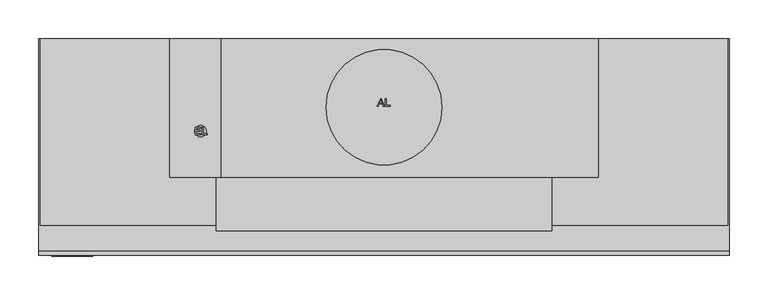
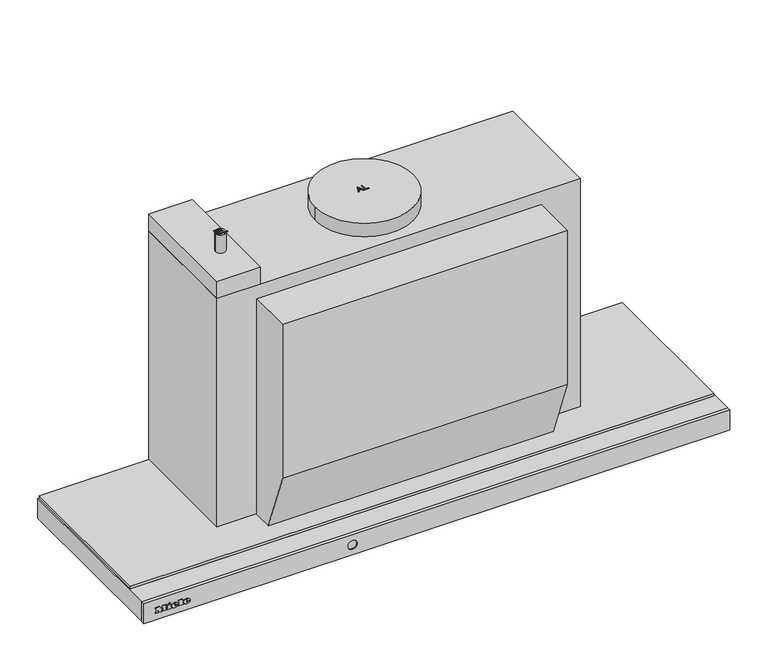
"""IFC4 building model written with IfcOpenShell, lengths in millimetres: proxy geometry, 11878550_USA_DAS4930_OBSW : 28S4930B_USA_11878550_DAS4930_OBSW."""

from ifc_helpers import new_model, si_unit, point, frame, frame_2d, origin, origin_with_axes, place, context, project, spatial, polyline, circle_curve, ellipse_curve, trimmed, segment, composite_curve, outline, extrude, faceted_brep, source, transform, mapped, element, save
from ifc_brep_helpers import plane_surface, cylinder_surface, revolved_surface, extruded_surface, advanced_brep


def specialty_equipment_2b05c946(model_context):
    return source(origin(), model_context, "Body", "SolidModel", [
        advanced_brep(
        [(-383.4590019, -282.1878927, -18.7681017), (-383.4590019, -282.1878927, -17.8894017), (-377.6387019, -282.1878927, -17.8894017), (-387.7655019, -282.1878927, -17.8894017), (-385.3730019, -282.1878927, -20.8300017), (-377.7866019, -282.1878927, -18.7681017), (-380.4140019, -282.1878927, -18.7681017), (-382.4846019, -282.1878927, -19.7425017), (-383.4590019, -282.1878927, -16.7758017), (-383.4590019, -282.1878927, -15.8275017), (-381.9713019, -282.1878927, -15.8275017), (-381.9713019, -282.1878927, -16.7758017), (-383.4590019, -281.1878927, -18.7681017), (-382.4846019, -281.1878927, -19.7425017), (-380.4140019, -281.1878927, -18.7681017), (-377.7866019, -281.1878927, -18.7681017), (-385.3730019, -281.1878927, -20.8300017), (-387.7655019, -281.1878927, -17.8894017), (-377.6387019, -281.1878927, -17.8894017), (-383.4590019, -281.1878927, -17.8894017), (-383.4590019, -281.1878927, -16.7758017), (-381.9713019, -281.1878927, -16.7758017), (-381.9713019, -281.1878927, -15.8275017), (-383.4590019, -281.1878927, -15.8275017)],
        [
            (0, 1),
            (1, 2),
            (2, 3, ellipse_curve(frame((-382.7021019, -282.1878927, -17.8894017), z_axis=(0.0, -1.0, 0.0), x_axis=(-1.0, 0.0, 0.0)), 5.0634, 4.1847)),
            (3, 4, circle_curve(frame((-384.3985544, -282.1878927, -17.5936017), z_axis=(0.0, -1.0, 0.0), x_axis=(0.0, 0.0, -1.0)), 3.3799161)),
            (4, 5, circle_curve(frame((-382.8034638, -282.1878927, -15.2968017), z_axis=(0.0, -1.0, 0.0), x_axis=(0.0, 0.0, -1.0)), 6.1007236)),
            (5, 6),
            (6, 7, circle_curve(frame((-382.0593254, -282.1878927, -17.9590017), z_axis=(0.0, 1.0, 0.0), x_axis=(0.0, 0.0, -1.0)), 1.8335027)),
            (7, 0, circle_curve(frame((-382.4846019, -282.1878927, -18.7681017), z_axis=(0.0, 1.0, 0.0), x_axis=(0.0, 0.0, -1.0)), 0.9744)),
            (8, 9),
            (9, 10, circle_curve(frame((-382.7151519, -282.1878927, -15.8275017), z_axis=(0.0, 1.0, 0.0), x_axis=(0.0, 0.0, -1.0)), 0.74385)),
            (10, 11),
            (11, 8),
            (12, 13, circle_curve(frame((-382.4846019, -281.1878927, -18.7681017), z_axis=(0.0, -1.0, 0.0), x_axis=(0.0, 0.0, -1.0)), 0.9744)),
            (13, 14, circle_curve(frame((-382.0593254, -281.1878927, -17.9590017), z_axis=(0.0, -1.0, 0.0), x_axis=(0.0, 0.0, -1.0)), 1.8335027)),
            (14, 15),
            (15, 16, circle_curve(frame((-382.8034638, -281.1878927, -15.2968017), z_axis=(0.0, 1.0, 0.0), x_axis=(0.0, 0.0, -1.0)), 6.1007236)),
            (16, 17, circle_curve(frame((-384.3985544, -281.1878927, -17.5936017), z_axis=(0.0, 1.0, 0.0), x_axis=(0.0, 0.0, -1.0)), 3.3799161)),
            (17, 18, ellipse_curve(frame((-382.7021019, -281.1878927, -17.8894017), z_axis=(0.0, 1.0, 0.0), x_axis=(-1.0, 0.0, 0.0)), 5.0634, 4.1847)),
            (18, 19),
            (19, 12),
            (20, 21),
            (21, 22),
            (22, 23, circle_curve(frame((-382.7151519, -281.1878927, -15.8275017), z_axis=(0.0, -1.0, 0.0), x_axis=(0.0, 0.0, -1.0)), 0.74385)),
            (23, 20),
            (0, 12),
            (19, 1),
            (18, 2),
            (5, 15),
            (14, 6),
            (17, 3),
            (13, 7),
            (16, 4),
            (8, 20),
            (23, 9),
            (22, 10),
            (21, 11),
        ],
        [
            plane_surface(frame((-383.4590019, -282.1878927, -17.8894017), z_axis=(0.0, -1.0, 0.0), x_axis=(0.0, 0.0, 1.0))),
            plane_surface(frame((-383.4590019, -281.1878927, -17.8894017), z_axis=(0.0, 1.0, 0.0), x_axis=(0.0, 0.0, -1.0))),
            plane_surface(frame((-383.4590019, -282.1878927, -18.7681017), z_axis=(1.0, 0.0, 0.0), x_axis=(0.0, 1.0, 0.0))),
            plane_surface(frame((-383.4590019, -282.1878927, -17.8894017), z_axis=(0.0, 0.0, -1.0), x_axis=(0.0, 1.0, 0.0))),
            plane_surface(frame((-377.7866019, -282.1878927, -18.7681017), z_axis=(0.0, 0.0, 1.0), x_axis=(0.0, 1.0, 0.0))),
            extruded_surface(trimmed(ellipse_curve(frame((-382.7021019, -280.1878927, -17.8894017), z_axis=(0.0, -1.0, 0.0), x_axis=(-1.0, 0.0, 0.0)), 5.0634, 4.1847), [point((-377.6387019, -280.1878927, -17.8894017))], [point((-387.7655019, -280.1878927, -17.8894017))], True, "CARTESIAN"), (0.0, -1.0, 0.0), 1.0),
            revolved_surface(polyline([(-382.0593254, -281.1878927, -19.792504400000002), (-382.0593254, -282.1878927, -19.792504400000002)]), (-382.0593254, -281.1878927, -17.9590017), (0.0, 1.0, 0.0)),
            revolved_surface(polyline([(-382.4846019, -281.1878927, -19.7425017), (-382.4846019, -282.1878927, -19.7425017)]), (-382.4846019, -281.1878927, -18.7681017), (0.0, 1.0, 0.0)),
            cylinder_surface(frame((-384.3985544, -281.1878927, -17.5936017), z_axis=(0.0, -1.0, 0.0), x_axis=(0.0, 0.0, -1.0)), 3.3799161),
            cylinder_surface(frame((-382.8034638, -281.1878927, -15.2968017), z_axis=(0.0, -1.0, 0.0), x_axis=(0.0, 0.0, -1.0)), 6.1007236),
            plane_surface(frame((-383.4590019, -282.1878927, -16.7758017), z_axis=(1.0, 0.0, 0.0), x_axis=(0.0, 1.0, 0.0))),
            revolved_surface(polyline([(-382.7151519, -281.1878927, -16.571351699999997), (-382.7151519, -282.1878927, -16.571351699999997)]), (-382.7151519, -281.1878927, -15.8275017), (0.0, 1.0, 0.0)),
            plane_surface(frame((-381.9713019, -282.1878927, -15.8275017), z_axis=(-1.0, 0.0, 0.0), x_axis=(0.0, 1.0, 0.0))),
            plane_surface(frame((-381.9713019, -282.1878927, -16.7758017), z_axis=(0.0, 0.0, 1.0), x_axis=(0.0, 1.0, 0.0))),
        ],
        [
            (0, [[1, 2, 3, 4, 5, 6, 7, 8], [9, 10, 11, 12]]),
            (1, [[13, 14, 15, 16, 17, 18, 19, 20], [21, 22, 23, 24]]),
            (2, [[-1, 25, -20, 26]]),
            (3, [[-2, -26, -19, 27]]),
            (4, [[-6, 28, -15, 29]]),
            (5, [[-3, -27, -18, 30]]),
            (6, [[-7, -29, -14, 31]]),
            (7, [[-8, -31, -13, -25]]),
            (8, [[-4, -30, -17, 32]]),
            (9, [[-5, -32, -16, -28]]),
            (10, [[-9, 33, -24, 34]]),
            (11, [[-10, -34, -23, 35]]),
            (12, [[-11, -35, -22, 36]]),
            (13, [[-12, -36, -21, -33]]),
        ],
    ),
        advanced_brep(
        [(-401.6159019, -282.1878927, -18.7681017), (-401.6159019, -282.1878927, -17.8894017), (-395.7956019, -282.1878927, -17.8894017), (-405.9224019, -282.1878927, -17.8894017), (-403.5299019, -282.1878927, -20.8300017), (-395.9435019, -282.1878927, -18.7681017), (-398.5709019, -282.1878927, -18.7681017), (-400.6415019, -282.1878927, -19.7425017), (-401.6159019, -282.1878927, -16.7758017), (-401.6159019, -282.1878927, -15.8275017), (-400.1282019, -282.1878927, -15.8275017), (-400.1282019, -282.1878927, -16.7758017), (-401.6159019, -281.1878927, -18.7681017), (-400.6415019, -281.1878927, -19.7425017), (-398.5709019, -281.1878927, -18.7681017), (-395.9435019, -281.1878927, -18.7681017), (-403.5299019, -281.1878927, -20.8300017), (-405.9224019, -281.1878927, -17.8894017), (-395.7956019, -281.1878927, -17.8894017), (-401.6159019, -281.1878927, -17.8894017), (-401.6159019, -281.1878927, -16.7758017), (-400.1282019, -281.1878927, -16.7758017), (-400.1282019, -281.1878927, -15.8275017), (-401.6159019, -281.1878927, -15.8275017)],
        [
            (0, 1),
            (1, 2),
            (2, 3, ellipse_curve(frame((-400.8590019, -282.1878927, -17.8894017), z_axis=(0.0, -1.0, 0.0), x_axis=(-1.0, 0.0, 0.0)), 5.0634, 4.1847)),
            (3, 4, circle_curve(frame((-402.5554544, -282.1878927, -17.5936017), z_axis=(0.0, -1.0, 0.0), x_axis=(0.0, 0.0, -1.0)), 3.3799161)),
            (4, 5, circle_curve(frame((-400.9603638, -282.1878927, -15.2968017), z_axis=(0.0, -1.0, 0.0), x_axis=(0.0, 0.0, -1.0)), 6.1007236)),
            (5, 6),
            (6, 7, circle_curve(frame((-400.2162254, -282.1878927, -17.9590017), z_axis=(0.0, 1.0, 0.0), x_axis=(0.0, 0.0, -1.0)), 1.8335027)),
            (7, 0, circle_curve(frame((-400.6415019, -282.1878927, -18.7681017), z_axis=(0.0, 1.0, 0.0), x_axis=(0.0, 0.0, -1.0)), 0.9744)),
            (8, 9),
            (9, 10, circle_curve(frame((-400.8720519, -282.1878927, -15.8275017), z_axis=(0.0, 1.0, 0.0), x_axis=(0.0, 0.0, -1.0)), 0.74385)),
            (10, 11),
            (11, 8),
            (12, 13, circle_curve(frame((-400.6415019, -281.1878927, -18.7681017), z_axis=(0.0, -1.0, 0.0), x_axis=(0.0, 0.0, -1.0)), 0.9744)),
            (13, 14, circle_curve(frame((-400.2162254, -281.1878927, -17.9590017), z_axis=(0.0, -1.0, 0.0), x_axis=(0.0, 0.0, -1.0)), 1.8335027)),
            (14, 15),
            (15, 16, circle_curve(frame((-400.9603638, -281.1878927, -15.2968017), z_axis=(0.0, 1.0, 0.0), x_axis=(0.0, 0.0, -1.0)), 6.1007236)),
            (16, 17, circle_curve(frame((-402.5554544, -281.1878927, -17.5936017), z_axis=(0.0, 1.0, 0.0), x_axis=(0.0, 0.0, -1.0)), 3.3799161)),
            (17, 18, ellipse_curve(frame((-400.8590019, -281.1878927, -17.8894017), z_axis=(0.0, 1.0, 0.0), x_axis=(-1.0, 0.0, 0.0)), 5.0634, 4.1847)),
            (18, 19),
            (19, 12),
            (20, 21),
            (21, 22),
            (22, 23, circle_curve(frame((-400.8720519, -281.1878927, -15.8275017), z_axis=(0.0, -1.0, 0.0), x_axis=(0.0, 0.0, -1.0)), 0.74385)),
            (23, 20),
            (0, 12),
            (19, 1),
            (18, 2),
            (5, 15),
            (14, 6),
            (17, 3),
            (13, 7),
            (16, 4),
            (8, 20),
            (23, 9),
            (22, 10),
            (21, 11),
        ],
        [
            plane_surface(frame((-401.6159019, -282.1878927, -17.8894017), z_axis=(0.0, -1.0, 0.0), x_axis=(0.0, 0.0, 1.0))),
            plane_surface(frame((-401.6159019, -281.1878927, -17.8894017), z_axis=(0.0, 1.0, 0.0), x_axis=(0.0, 0.0, -1.0))),
            plane_surface(frame((-401.6159019, -282.1878927, -18.7681017), z_axis=(1.0, 0.0, 0.0), x_axis=(0.0, 1.0, 0.0))),
            plane_surface(frame((-401.6159019, -282.1878927, -17.8894017), z_axis=(0.0, 0.0, -1.0), x_axis=(0.0, 1.0, 0.0))),
            plane_surface(frame((-395.9435019, -282.1878927, -18.7681017), z_axis=(0.0, 0.0, 1.0), x_axis=(0.0, 1.0, 0.0))),
            extruded_surface(trimmed(ellipse_curve(frame((-400.8590019, -280.1878927, -17.8894017), z_axis=(0.0, -1.0, 0.0), x_axis=(-1.0, 0.0, 0.0)), 5.0634, 4.1847), [point((-395.7956019, -280.1878927, -17.8894017))], [point((-405.9224019, -280.1878927, -17.8894017))], True, "CARTESIAN"), (0.0, -1.0, 0.0), 1.0),
            revolved_surface(polyline([(-400.2162254, -281.1878927, -19.792504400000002), (-400.2162254, -282.1878927, -19.792504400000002)]), (-400.2162254, -281.1878927, -17.9590017), (0.0, 1.0, 0.0)),
            revolved_surface(polyline([(-400.6415019, -281.1878927, -19.7425017), (-400.6415019, -282.1878927, -19.7425017)]), (-400.6415019, -281.1878927, -18.7681017), (0.0, 1.0, 0.0)),
            cylinder_surface(frame((-402.5554544, -281.1878927, -17.5936017), z_axis=(0.0, -1.0, 0.0), x_axis=(0.0, 0.0, -1.0)), 3.3799161),
            cylinder_surface(frame((-400.9603638, -281.1878927, -15.2968017), z_axis=(0.0, -1.0, 0.0), x_axis=(0.0, 0.0, -1.0)), 6.1007236),
            plane_surface(frame((-401.6159019, -282.1878927, -16.7758017), z_axis=(1.0, 0.0, 0.0), x_axis=(0.0, 1.0, 0.0))),
            revolved_surface(polyline([(-400.8720519, -281.1878927, -16.571351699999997), (-400.8720519, -282.1878927, -16.571351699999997)]), (-400.8720519, -281.1878927, -15.8275017), (0.0, 1.0, 0.0)),
            plane_surface(frame((-400.1282019, -282.1878927, -15.8275017), z_axis=(-1.0, 0.0, 0.0), x_axis=(0.0, 1.0, 0.0))),
            plane_surface(frame((-400.1282019, -282.1878927, -16.7758017), z_axis=(0.0, 0.0, 1.0), x_axis=(0.0, 1.0, 0.0))),
        ],
        [
            (0, [[1, 2, 3, 4, 5, 6, 7, 8], [9, 10, 11, 12]]),
            (1, [[13, 14, 15, 16, 17, 18, 19, 20], [21, 22, 23, 24]]),
            (2, [[-1, 25, -20, 26]]),
            (3, [[-2, -26, -19, 27]]),
            (4, [[-6, 28, -15, 29]]),
            (5, [[-3, -27, -18, 30]]),
            (6, [[-7, -29, -14, 31]]),
            (7, [[-8, -31, -13, -25]]),
            (8, [[-4, -30, -17, 32]]),
            (9, [[-5, -32, -16, -28]]),
            (10, [[-9, 33, -24, 34]]),
            (11, [[-10, -34, -23, 35]]),
            (12, [[-11, -35, -22, 36]]),
            (13, [[-12, -36, -21, -33]]),
        ],
    ),
        extrude(outline(polyline([(-12.6433017, -411.1250019), (-14.0527017, -410.4638019), (-12.6781017, -407.5145019), (-11.2687017, -408.1670019), (-12.6433017, -411.1250019)])), frame((0.0, -282.1878927, 0.0), z_axis=(0.0, 1.0, 0.0), x_axis=(0.0, 0.0, 1.0)), (0.0, 0.0, 1.0), 1.0),
        extrude(outline(polyline([(-14.2441017, -413.2739019), (-15.8014017, -413.2739019), (-15.8014017, -412.2386019), (-19.3684017, -412.2386019), (-19.3684017, -413.2739019), (-20.8300017, -413.2739019), (-20.8300017, -406.4096019), (-19.3684017, -406.4096019), (-19.3684017, -407.4188019), (-14.2441017, -407.4188019), (-14.2441017, -413.2739019)])), frame((0.0, -282.1878927, 0.0), z_axis=(0.0, 1.0, 0.0), x_axis=(0.0, 0.0, 1.0)), (0.0, 0.0, 1.0), 1.0),
        extrude(outline(polyline([(-13.5481017, -395.3084019), (-13.5481017, -394.2644019), (-19.3684017, -394.2644019), (-19.3684017, -395.3084019), (-20.8300017, -395.3084019), (-20.8300017, -388.2527019), (-19.3684017, -388.2527019), (-19.3684017, -389.3228019), (-12.1300017, -389.3228019), (-12.1300017, -395.3084019), (-13.5481017, -395.3084019)])), frame((0.0, -282.1878927, 0.0), z_axis=(0.0, 1.0, 0.0), x_axis=(0.0, 0.0, 1.0)), (0.0, 0.0, 1.0), 1.0),
        extrude(outline(polyline([(-13.5481017, -430.6130019), (-13.5481017, -429.5603019), (-19.3684017, -429.5603019), (-19.3684017, -430.6130019), (-20.8300017, -430.6130019), (-20.8300017, -426.7850019), (-19.3684017, -426.7850019), (-19.3684017, -427.8290019), (-15.6719769, -427.8290019), (-20.8300017, -423.9401019), (-15.5772794, -420.0338019), (-19.3684017, -420.0338019), (-19.3684017, -421.1039019), (-20.8300017, -421.1039019), (-20.8300017, -414.1613019), (-19.3684017, -414.1613019), (-19.3684017, -415.2662019), (-13.5481017, -415.2662019), (-13.5481017, -414.1613019), (-12.1300017, -414.1613019), (-12.1300017, -419.4596019), (-15.3925017, -422.0000019), (-12.1300017, -424.5491019), (-12.1300017, -430.6130019), (-13.5481017, -430.6130019)])), frame((0.0, -282.1878927, 0.0), z_axis=(0.0, 1.0, 0.0), x_axis=(0.0, 0.0, 1.0)), (0.0, 0.0, 1.0), 1.0),
        advanced_brep(
        [(-448.0, -281.1878927, 0.0), (-448.0, -281.1878927, -32.0), (448.0, -281.1878927, -32.0), (448.0, -281.1878927, 0.0), (-121.989338, -281.1878927, -16.0), (-136.010662, -281.1878927, -16.0), (-448.0, -275.4770358, 0.0), (448.0, -275.4770358, 0.0), (448.0, -275.4770358, -32.0), (-448.0, -275.4770358, -32.0), (-136.010662, -279.3472208, -16.0), (-121.989338, -279.3472208, -16.0)],
        [
            (0, 1),
            (1, 2),
            (2, 3),
            (3, 0),
            (4, 5, circle_curve(frame((-129.0, -281.1878927, -16.0), z_axis=(0.0, 1.0, 0.0), x_axis=(1.0, 0.0, 0.0)), 7.010662)),
            (5, 4, circle_curve(frame((-129.0, -281.1878927, -16.0), z_axis=(0.0, 1.0, 0.0), x_axis=(1.0, 0.0, 0.0)), 7.010662)),
            (6, 7),
            (7, 8),
            (8, 9),
            (9, 6),
            (3, 7),
            (6, 0),
            (2, 8),
            (1, 9),
            (10, 11, circle_curve(frame((-129.0, -279.3472208, -16.0), z_axis=(0.0, -1.0, 0.0), x_axis=(1.0, 0.0, 0.0)), 7.010662)),
            (11, 10, circle_curve(frame((-129.0, -279.3472208, -16.0), z_axis=(0.0, -1.0, 0.0), x_axis=(1.0, 0.0, 0.0)), 7.010662)),
            (10, 5),
            (4, 11),
        ],
        [
            plane_surface(frame((-448.0, -281.1878927, 0.0), z_axis=(0.0, -1.0, 0.0), x_axis=(0.0, 0.0, -1.0))),
            plane_surface(frame((-448.0, -275.4770358, 0.0), z_axis=(0.0, 1.0, 0.0), x_axis=(0.0, 0.0, 1.0))),
            plane_surface(frame((448.0, -281.1878927, 0.0), z_axis=(0.0, 0.0, 1.0), x_axis=(0.0, 1.0, 0.0))),
            plane_surface(frame((448.0, -281.1878927, -32.0), z_axis=(1.0, 0.0, 0.0), x_axis=(0.0, 1.0, 0.0))),
            plane_surface(frame((-448.0, -281.1878927, -32.0), z_axis=(0.0, 0.0, -1.0), x_axis=(0.0, 1.0, 0.0))),
            plane_surface(frame((-448.0, -281.1878927, 0.0), z_axis=(-1.0, 0.0, 0.0), x_axis=(0.0, 1.0, 0.0))),
            plane_surface(frame((-121.989338, -279.3472208, -16.0), z_axis=(0.0, -1.0, 0.0), x_axis=(0.0, 0.0, -1.0))),
            revolved_surface(polyline([(-121.989338, -281.1878927, -16.0), (-121.989338, -279.3472208, -16.0)]), (-129.0, -279.3472208, -16.0), (0.0, -1.0, 0.0)),
        ],
        [
            (0, [[1, 2, 3, 4], [5, 6]]),
            (1, [[7, 8, 9, 10]]),
            (2, [[-4, 11, -7, 12]]),
            (3, [[-3, 13, -8, -11]]),
            (4, [[-2, 14, -9, -13]]),
            (5, [[-1, -12, -10, -14]]),
            (6, [[15, 16]]),
            (7, [[-15, 17, -5, 18]]),
            (7, [[-16, -18, -6, -17]]),
        ],
    ),
        extrude(outline(polyline([(278.0, -180.0), (-278.0, -180.0), (-278.0, 0.0), (278.0, 0.0), (278.0, -180.0)])), frame((0.0, 0.0, 4.0), z_axis=(0.0, 0.0, 1.0), x_axis=(1.0, 0.0, 0.0)), (0.0, 0.0, 1.0), 369.0),
        extrude(outline(composite_curve([segment(trimmed(circle_curve(frame_2d((0.0, -89.0)), 75.0), [point((-75.0, -89.0))], [point((75.0, -89.0))], False, "CARTESIAN"), True, "CONTINUOUS"), segment(trimmed(circle_curve(frame_2d((0.0, -89.0)), 75.0), [point((75.0, -89.0))], [point((-75.0, -89.0))], False, "CARTESIAN"), True, "CONTINUOUS")], self_intersect=False)), frame((0.0, 0.0, 373.0), z_axis=(0.0, 0.0, 1.0), x_axis=(1.0, 0.0, 0.0)), (0.0, 0.0, 1.0), 22.0),
        extrude(outline(polyline([(-278.0, -180.0), (-278.0, 0.0), (-212.0, 0.0), (-212.0, -180.0), (-278.0, -180.0)])), frame((0.0, 0.0, 373.0), z_axis=(0.0, 0.0, 1.0), x_axis=(1.0, 0.0, 0.0)), (0.0, 0.0, 1.0), 28.0),
        extrude(outline(polyline([(-180.0, 352.0), (-180.0, 4.0), (-211.7966838, 4.0), (-249.5, 103.2192532), (-249.5, 352.0), (-180.0, 352.0)])), frame((-217.7156244, 0.0, 0.0), z_axis=(1.0, 0.0, 0.0), x_axis=(0.0, 1.0, 0.0)), (0.0, 0.0, 1.0), 435.4312488),
        extrude(outline(polyline([(-8.5446725, -87.975609), (-4.5347587, -77.929978), (-3.4654484, -77.929978), (0.5420128, -87.975609), (-0.7848149, -87.975609), (-1.9326067, -84.8363493), (-6.0725055, -84.8363493), (-7.2202973, -87.975609), (-8.5446725, -87.975609)]), holes=[polyline([(-5.6114267, -83.5806455), (-2.391233, -83.5806455), (-3.2986752, -81.110931), (-4.0025561, -79.1856819), (-4.6279555, -80.8951069), (-5.6114267, -83.5806455)])]), frame((0.0, 0.0, 395.0), z_axis=(0.0, 0.0, 1.0), x_axis=(1.0, 0.0, 0.0)), (0.0, 0.0, 1.0), 1.0),
        extrude(outline(polyline([(1.8835558, -87.975609), (1.8835558, -77.929978), (3.1392597, -77.929978), (3.1392597, -86.7199052), (8.1620752, -86.7199052), (8.1620752, -87.975609), (1.8835558, -87.975609)])), frame((0.0, 0.0, 395.0), z_axis=(0.0, 0.0, 1.0), x_axis=(1.0, 0.0, 0.0)), (0.0, 0.0, 1.0), 1.0),
        extrude(outline(polyline([(446.0, 0.0), (446.0, -242.0), (-446.0, -242.0), (-446.0, 0.0), (446.0, 0.0)])), origin_with_axes(), (0.0, 0.0, 1.0), 4.0),
        extrude(outline(polyline([(120.0, -19.25), (120.0, -31.75), (-120.0, -31.75), (-120.0, -19.25), (120.0, -19.25)])), frame((0.0, 0.0, -23.0), z_axis=(0.0, 0.0, 1.0), x_axis=(1.0, 0.0, 0.0)), (0.0, 0.0, 1.0), 1.785426),
        extrude(outline(polyline([(331.0813184, -268.0), (331.0813184, -246.0), (399.0, -246.0), (399.0, -268.0), (331.0813184, -268.0)])), frame((0.0, 0.0, -33.3019181), z_axis=(0.0, 0.0, 1.0), x_axis=(1.0, 0.0, 0.0)), (0.0, 0.0, 1.0), 1.3019181),
        extrude(outline(polyline([(-399.0, -268.0), (-399.0, -246.0), (-331.0, -246.0), (-331.0, -268.0), (-399.0, -268.0)])), frame((0.0, 0.0, -33.3019181), z_axis=(0.0, 0.0, 1.0), x_axis=(1.0, 0.0, 0.0)), (0.0, 0.0, 1.0), 1.3019181),
        extrude(outline(composite_curve([segment(trimmed(circle_curve(frame_2d((-238.0, -120.0)), 7.5), [point((-230.5, -120.0))], [point((-245.5, -120.0))], False, "CARTESIAN"), True, "CONTINUOUS"), segment(trimmed(circle_curve(frame_2d((-238.0, -120.0)), 7.5), [point((-245.5, -120.0))], [point((-230.5, -120.0))], False, "CARTESIAN"), True, "CONTINUOUS")], self_intersect=False)), frame((0.0, 0.0, 401.0), z_axis=(0.0, 0.0, 1.0), x_axis=(1.0, 0.0, 0.0)), (0.0, 0.0, 1.0), 30.0),
        extrude(outline(polyline([(-235.640443, -124.9184735), (-235.640443, -114.8728425), (-234.3847391, -114.8728425), (-234.3847391, -123.6627696), (-229.3619236, -123.6627696), (-229.3619236, -124.9184735), (-235.640443, -124.9184735)])), frame((0.0, 0.0, 431.0), z_axis=(0.0, 0.0, 1.0), x_axis=(1.0, 0.0, 0.0)), (0.0, 0.0, 1.0), 1.0),
        extrude(outline(polyline([(-244.9012591, -124.9184735), (-244.9012591, -114.8728425), (-237.6809618, -114.8728425), (-237.6809618, -116.1285464), (-243.6455552, -116.1285464), (-243.6455552, -119.1108431), (-237.9948878, -119.1108431), (-237.9948878, -120.366547), (-243.6455552, -120.366547), (-243.6455552, -123.6627696), (-237.5239988, -123.6627696), (-237.5239988, -124.9184735), (-244.9012591, -124.9184735)])), frame((0.0, 0.0, 431.0), z_axis=(0.0, 0.0, 1.0), x_axis=(1.0, 0.0, 0.0)), (0.0, 0.0, 1.0), 1.0),
        extrude(outline(polyline([(-448.0, 0.0), (-413.0, 0.0), (-413.0, -242.0), (413.0, -242.0), (413.0, 0.0), (448.0, 0.0), (448.0, -275.0), (-448.0, -275.0), (-448.0, 0.0)])), frame((0.0, 0.0, -32.0), z_axis=(0.0, 0.0, 1.0), x_axis=(1.0, 0.0, 0.0)), (0.0, 0.0, 1.0), 32.0),
        faceted_brep([(-126.0, -39.0, -24.0), (-126.0, -39.0, 0.0), (126.0, -39.0, 0.0), (126.0, -39.0, -24.0), (-126.0, -12.0, -24.0), (-126.0, -12.0, 0.0), (126.0, -12.0, -24.0), (126.0, -12.0, 0.0), (-413.0, -242.0, 0.0), (-413.0, 0.0, 0.0), (-413.0, 0.0, -24.0), (-413.0, -52.0, -24.0), (-413.0, -52.0, -25.0), (-413.0, -242.0, -25.0), (413.0, -52.0, -25.0), (413.0, -242.0, -25.0), (413.0, -52.0, -24.0), (413.0, 0.0, -24.0), (413.0, 0.0, 0.0), (413.0, -242.0, 0.0)], [[[0, 1, 2, 3]], [[4, 5, 1, 0]], [[6, 7, 5, 4]], [[8, 9, 10, 11, 12, 13]], [[13, 12, 14, 15]], [[16, 11, 10, 17], [6, 4, 0, 3]], [[11, 16, 14, 12]], [[18, 9, 8, 19], [5, 7, 2, 1]], [[9, 18, 17, 10]], [[19, 8, 13, 15]], [[18, 19, 15, 14, 16, 17]], [[7, 6, 3, 2]]]),
        extrude(outline(polyline([(126.0, -12.0), (126.0, -39.0), (-126.0, -39.0), (-126.0, -12.0), (126.0, -12.0)]), holes=[polyline([(120.0, -19.25), (-120.0, -19.25), (-120.0, -31.75), (120.0, -31.75), (120.0, -19.25)])]), frame((0.0, 0.0, -21.214574), z_axis=(0.0, 0.0, 1.0), x_axis=(1.0, 0.0, 0.0)), (0.0, 0.0, 1.0), 21.214574),
    ])


if __name__ == "__main__":
    model = new_model("IFC4")
    model_context = context("Model", 3, world=origin())
    ifc_project = project(units=[si_unit("LENGTHUNIT", "METRE", prefix="MILLI")], contexts=[model_context])
    site = spatial("IfcSite", under=ifc_project)
    building = spatial("IfcBuilding", under=site)
    placement = place(None, origin())
    specialty_equipment_shape = specialty_equipment_2b05c946(model_context)
    element("IfcBuildingElementProxy", 1, Name="11878550_USA_DAS4930_OBSW : 28S4930B_USA_11878550_DAS4930_OBSW", ObjectType="11878550_USA_DAS4930_OBSW : 28S4930B_USA_11878550_DAS4930_OBSW", at=placement, inside=building, context=model_context, shape_type="MappedRepresentation", body=[
        mapped(specialty_equipment_shape, transform((0.0, 0.0, 0.0), x_axis=(1.0, 0.0, 0.0), y_axis=(0.0, 1.0, 0.0), z_axis=(0.0, 0.0, 1.0))),
    ])
    save(model, "model.ifc")
